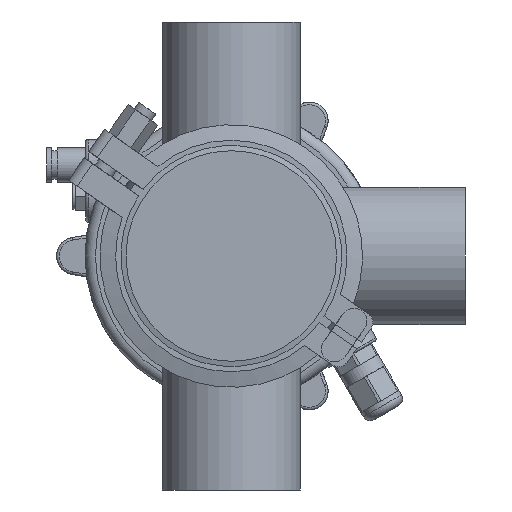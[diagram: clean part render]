
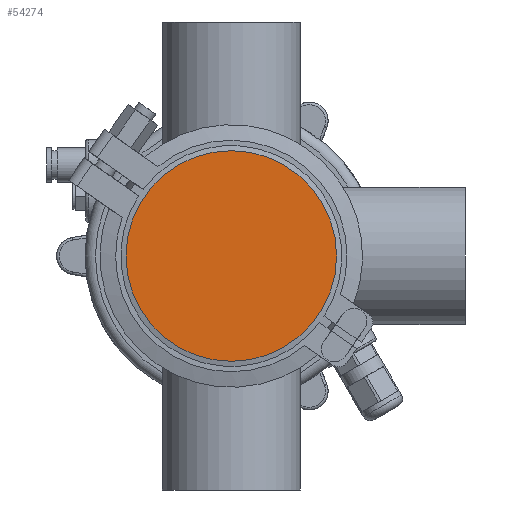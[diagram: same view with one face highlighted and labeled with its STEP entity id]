
A CAD part, front view. The second image highlights one B-rep face of the part: STEP entity #54274.
In plain terms, the highlighted planar face has unit normal (0, -1, 0).
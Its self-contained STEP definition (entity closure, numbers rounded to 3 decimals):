
#1753 = DIRECTION ( 'NONE',  ( 0., -1., 0. ) ) ;
#1849 = CARTESIAN_POINT ( 'NONE',  ( 0., 0., 0. ) ) ;
#2220 = CIRCLE ( 'NONE', #45798, 40.5 ) ;
#2367 = CARTESIAN_POINT ( 'NONE',  ( -40.5, 0., 0. ) ) ;
#21603 = FACE_OUTER_BOUND ( 'NONE', #51628, .T. ) ;
#23196 = EDGE_CURVE ( 'NONE', #37334, #37334, #2220, .T. ) ;
#25683 = AXIS2_PLACEMENT_3D ( 'NONE', #2367, #1753, #39901 ) ;
#37334 = VERTEX_POINT ( 'NONE', #51608 ) ;
#38963 = ORIENTED_EDGE ( 'NONE', *, *, #23196, .F. ) ;
#39358 = DIRECTION ( 'NONE',  ( 0., 0., 1. ) ) ;
#39901 = DIRECTION ( 'NONE',  ( 0., 0., -1. ) ) ;
#45798 = AXIS2_PLACEMENT_3D ( 'NONE', #1849, #58923, #39358 ) ;
#50114 = PLANE ( 'NONE',  #25683 ) ;
#51608 = CARTESIAN_POINT ( 'NONE',  ( 0., 0., 40.5 ) ) ;
#51628 = EDGE_LOOP ( 'NONE', ( #38963 ) ) ;
#54274 = ADVANCED_FACE ( 'NONE', ( #21603 ), #50114, .T. ) ;
#58923 = DIRECTION ( 'NONE',  ( 0., 1., 0. ) ) ;
